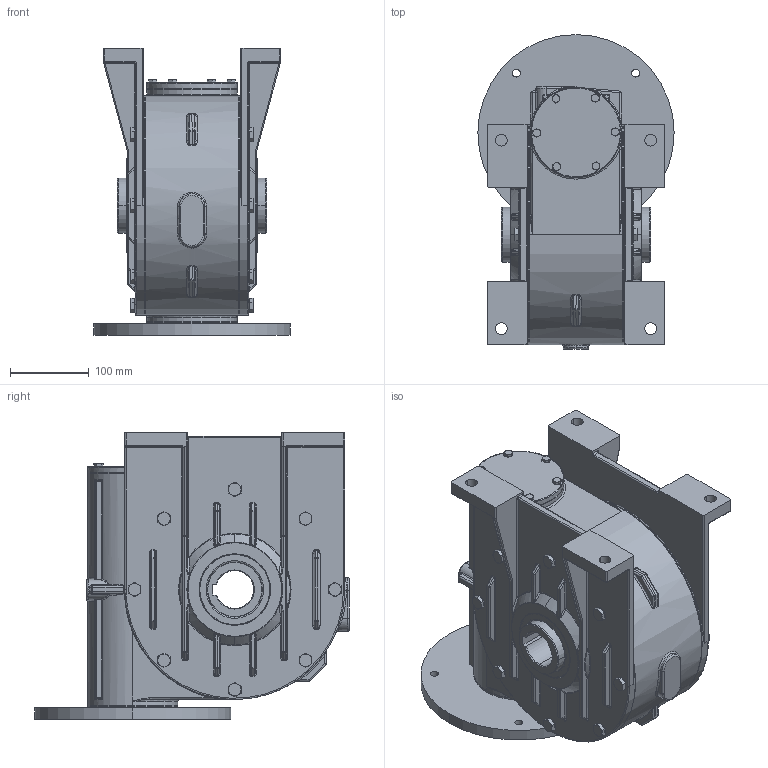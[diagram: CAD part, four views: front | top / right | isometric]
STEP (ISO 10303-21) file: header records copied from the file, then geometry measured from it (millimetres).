
FILE_DESCRIPTION (( 'STEP AP203' ), '1' );
FILE_NAME ('3F002441.STEP', '2012-07-24T06:20:07', ( 'Amministratore' ), ( 'SerteK sas' ), 'SwSTEP 2.0', 'SolidWorks 2009', '' );
FILE_SCHEMA (( 'CONFIG_CONTROL_DESIGN' ));
Length unit declared in the file: millimetre
Products named in the file (1): 3F002441
Bounding box: 250 x 401 x 365.55 mm (x, y, z)
Surface area: 1106477.9 mm2 (no closed solid volume)
Topology: 0 solids, 31 shells, 2322 faces, 5555 edges, 3353 vertices
Faces by surface type: cylinder 845, bspline 562, plane 524, cone 391
Entity records: 118300 total; most frequent: CARTESIAN_POINT 68804, ORIENTED_EDGE 10888, DIRECTION 9427, EDGE_CURVE 5464, AXIS2_PLACEMENT_3D 3851, VERTEX_POINT 3353, EDGE_LOOP 2565, FACE_OUTER_BOUND 2322
